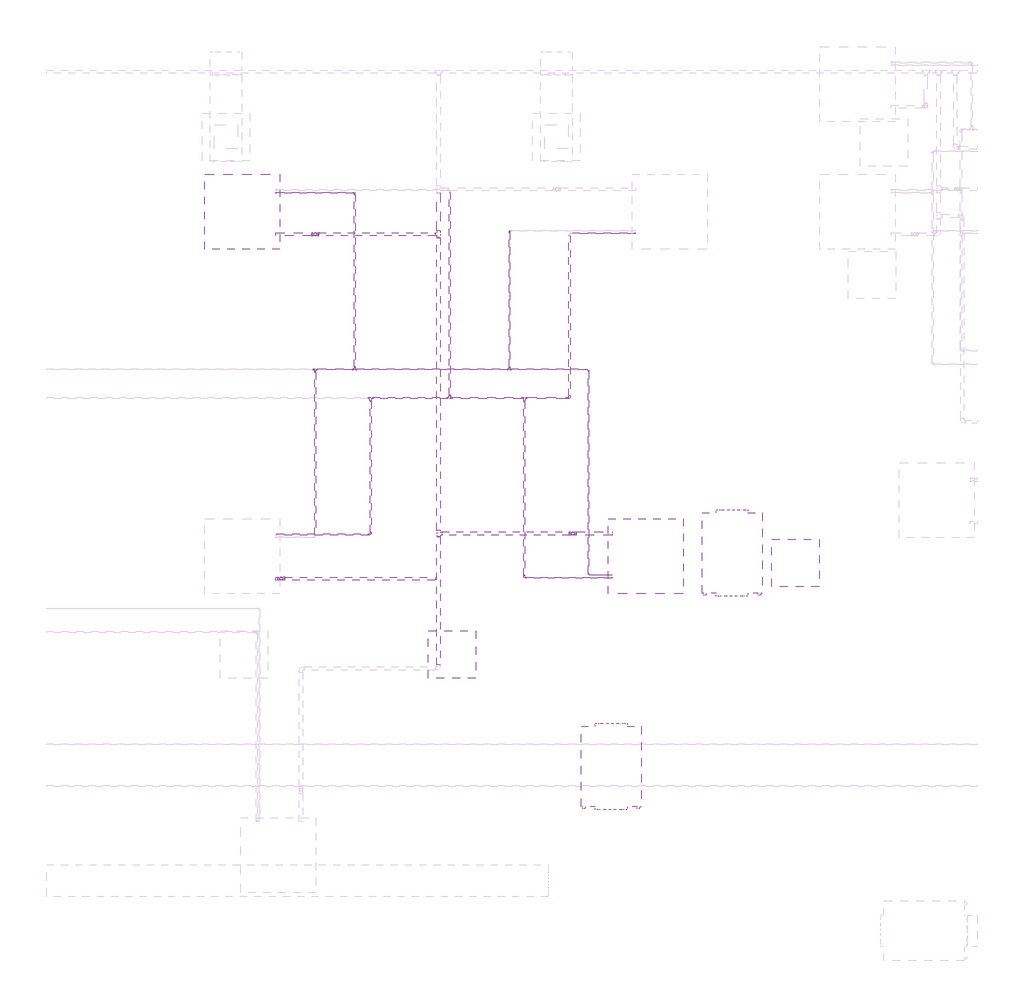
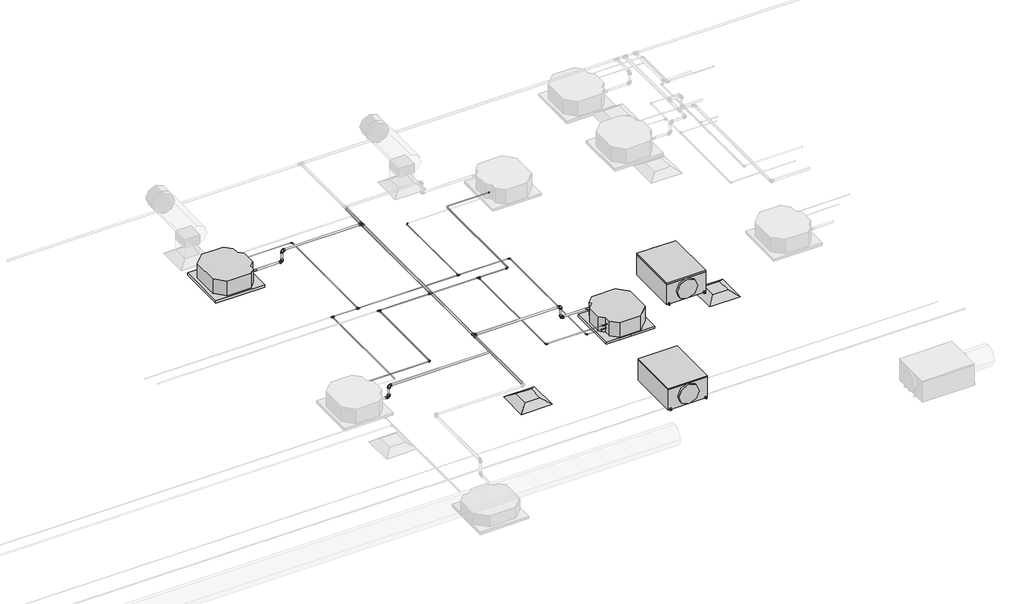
# One storey, part 18 of 22: 33 pipe fittings, 31 pipe segments, 4 proxies, 2 air terminals.
"""IFC4 building model written with IfcOpenShell, lengths in millimetres."""

from ifc_helpers import new_model, si_unit, point, frame, frame_2d, origin, place, context, project, spatial, circle_curve, trimmed, segment, composite_curve, outline, extrude, transform, mapped, element, save
from components import air_terminal_ff221211, mechanical_equipment_53173f38, fh_fh_400_6e0c7af0, pipe_fitting_062ba67a, pipe_fitting_144f4440, pipe_fitting_14eb6376, pipe_fitting_c900cfc2, pipe_fitting_16c020f5, pipe_fitting_afe73776, pipe_fitting_09966660, pipe_fitting_64d0e8e9, pipe_fitting_59d1f3e3, pipe_fitting_648138cd, pipe_fitting_b0e77d1d, pipe_fitting_c180495a, pipe_fitting_da16c1b3, pipe_fitting_90384c60, pipe_fitting_5a6d96d3

model = new_model("IFC4")

# Units and contexts
model_context = context("Model", 3, world=origin())
ifc_project = project(units=[si_unit("LENGTHUNIT", "METRE", prefix="MILLI")], contexts=[model_context])

# Site, building, storey
site = spatial("IfcSite", under=ifc_project)
building = spatial("IfcBuilding", under=site)
storey = spatial("IfcBuildingStorey", under=building, Name="Nível 2", Elevation=3880.0)

# Air terminals
placement = place(None, origin())
air_terminal_shape = air_terminal_ff221211(model_context)
element("IfcAirTerminal", 1, ObjectType="M_Difusor de fornecimento : 600 x 600 Face 300 x 300 Conexão", at=placement, inside=storey, context=model_context, shape_type="MappedRepresentation", body=[
    mapped(air_terminal_shape, transform((18669.5136677, 2137.3539749, 6880.0), x_axis=(0.0, 1.0, 0.0), y_axis=(-1.0, 0.0, 0.0), z_axis=(0.0, 0.0, 1.0))),
])
element("IfcAirTerminal", 2, ObjectType="M_Difusor de fornecimento : 600 x 600 Face 300 x 300 Conexão", at=placement, inside=storey, context=model_context, shape_type="MappedRepresentation", body=[
    mapped(air_terminal_shape, transform((23014.7064473, 3294.7054459, 6880.0), x_axis=(-1.0, 0.0, 0.0), y_axis=(0.0, -1.0, 0.0), z_axis=(0.0, 0.0, 1.0))),
])

# Proxies
mechanical_equipment_shape = mechanical_equipment_53173f38(model_context)
element("IfcBuildingElementProxy", 3, Name="Midea_VRF_Indoor_4-way Cassette_MI-90(100,112,140)Q4_DHN1-D (2nd DC) : MI2-140Q4DHN1", ObjectType="Midea_VRF_Indoor_4-way Cassette_MI-90(100,112,140)Q4_DHN1-D (2nd DC) : MI2-140Q4DHN1", at=placement, inside=storey, context=model_context, shape_type="MappedRepresentation", body=[
    mapped(mechanical_equipment_shape, transform((16014.3184177, 7738.4946683, 6880.0), x_axis=(1.0, 0.0, 0.0), y_axis=(0.0, 1.0, 0.0), z_axis=(0.0, 0.0, 1.0))),
])
element("IfcBuildingElementProxy", 4, Name="Midea_VRF_Indoor_4-way Cassette_MI-90(100,112,140)Q4_DHN1-D (2nd DC) : MI2-140Q4DHN1", ObjectType="Midea_VRF_Indoor_4-way Cassette_MI-90(100,112,140)Q4_DHN1-D (2nd DC) : MI2-140Q4DHN1", at=placement, inside=storey, context=model_context, shape_type="MappedRepresentation", body=[
    mapped(mechanical_equipment_shape, transform((21120.3085305, 3382.4868871, 6880.0), x_axis=(-1.0, 0.0, 0.0), y_axis=(0.0, -1.0, 0.0), z_axis=(0.0, 0.0, 1.0))),
])
fh_fh_400_shape = fh_fh_400_6e0c7af0(model_context)
element("IfcBuildingElementProxy", 5, Name="FH : FH 400", ObjectType="FH : FH 400", at=placement, inside=storey, context=model_context, shape_type="MappedRepresentation", body=[
    mapped(fh_fh_400_shape, transform((22212.1483041, 3422.8368648, 7280.0), x_axis=(1.0, 0.0, 0.0), y_axis=(0.0, 1.0, 0.0), z_axis=(0.0, 0.0, 1.0))),
])
element("IfcBuildingElementProxy", 6, Name="FH : FH 400", ObjectType="FH : FH 400", at=placement, inside=storey, context=model_context, shape_type="MappedRepresentation", body=[
    mapped(fh_fh_400_shape, transform((20682.6496305, 722.8368648, 7280.0), x_axis=(1.0, 0.0, 0.0), y_axis=(0.0, 1.0, 0.0), z_axis=(0.0, 0.0, 1.0))),
])

# Pipe fittings
pipe_fitting_shape = pipe_fitting_062ba67a(model_context)
element("IfcPipeFitting", 7, ObjectType="Cotovelo - PVC - CW : Padrão", at=placement, inside=storey, context=model_context, shape_type="MappedRepresentation", body=[
    mapped(pipe_fitting_shape, transform((20195.3085305, 3667.4868871, 7132.3), x_axis=(-0.999999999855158, 0.0, -1.7020106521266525e-05), y_axis=(-1.7020106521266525e-05, 0.0, 0.999999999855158), z_axis=(0.0, 1.0, 0.0))),
])
element("IfcPipeFitting", 8, ObjectType="Cotovelo - PVC - CW : Padrão", at=placement, inside=storey, context=model_context, shape_type="MappedRepresentation", body=[
    mapped(pipe_fitting_shape, transform((16939.3184176, 7453.4946683, 7132.3), x_axis=(0.999999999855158, 0.0, -1.70201065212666e-05), y_axis=(1.70201065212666e-05, 0.0, 0.999999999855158), z_axis=(0.0, -1.0, 0.0))),
])
pipe_fitting_2_shape = pipe_fitting_144f4440(model_context)
element("IfcPipeFitting", 9, ObjectType="Cotovelo - PVC - CW : Padrão", at=placement, inside=storey, context=model_context, shape_type="MappedRepresentation", body=[
    mapped(pipe_fitting_2_shape, transform((16509.7181651, 3097.4868871, 7132.3085101), x_axis=(1.0, 0.0, 0.0), y_axis=(0.0, 0.0, 1.0), z_axis=(0.0, -1.0, 0.0))),
])
element("IfcPipeFitting", 10, ObjectType="Cotovelo - PVC - CW : Padrão", at=placement, inside=storey, context=model_context, shape_type="MappedRepresentation", body=[
    mapped(pipe_fitting_2_shape, transform((16509.7181651, 3097.4868871, 7360.6313654), x_axis=(0.0, 0.0, 1.0), y_axis=(1.0, 0.0, 0.0), z_axis=(0.0, 1.0, 0.0))),
])
element("IfcPipeFitting", 11, ObjectType="Cotovelo - PVC - CW : Padrão", at=placement, inside=storey, context=model_context, shape_type="MappedRepresentation", body=[
    mapped(pipe_fitting_2_shape, transform((20195.3085305, 3667.4868871, 7360.6313654), x_axis=(0.0, 0.0, 1.0), y_axis=(-1.0, 0.0, 0.0), z_axis=(0.0, -1.0, 0.0))),
])
element("IfcPipeFitting", 12, ObjectType="Cotovelo - PVC - CW : Padrão", at=placement, inside=storey, context=model_context, shape_type="MappedRepresentation", body=[
    mapped(pipe_fitting_2_shape, transform((16939.3184176, 7453.4946683, 7360.6313654), x_axis=(0.0, 0.0, 1.0), y_axis=(1.0, 0.0, 0.0), z_axis=(0.0, 1.0, 0.0))),
])
pipe_fitting_3_shape = pipe_fitting_14eb6376(model_context)
element("IfcPipeFitting", 13, ObjectType="Tê de redução - PVC - CW : Padrão", at=placement, inside=storey, context=model_context, shape_type="MappedRepresentation", body=[
    mapped(pipe_fitting_3_shape, transform((18498.0303831, 3667.4868871, 7360.6313654), x_axis=(0.0, 1.0, 0.0), y_axis=(-1.0, 0.0, 0.0), z_axis=(0.0, 0.0, 1.0))),
])
element("IfcPipeFitting", 14, ObjectType="Tê de redução - PVC - CW : Padrão", at=placement, inside=storey, context=model_context, shape_type="MappedRepresentation", body=[
    mapped(pipe_fitting_3_shape, transform((18498.0303831, 7453.4946683, 7360.6313654), x_axis=(0.0, 1.0, 0.0), y_axis=(1.0, 0.0, 0.0), z_axis=(0.0, 0.0, -1.0))),
])
pipe_fitting_4_shape = pipe_fitting_c900cfc2(model_context)
element("IfcPipeFitting", 15, ObjectType="Bucha de redução reta - Soldada - CU : Padrão", at=placement, inside=storey, context=model_context, shape_type="MappedRepresentation", body=[
    mapped(pipe_fitting_4_shape, transform((20695.3085305, 3109.2760734, 7132.3085101), x_axis=(-1.0, 0.0, 0.0), y_axis=(0.0, -1.0, 0.0), z_axis=(0.0, 0.0, 1.0))),
])
element("IfcPipeFitting", 16, ObjectType="Bucha de redução reta - Soldada - CU : Padrão", at=placement, inside=storey, context=model_context, shape_type="MappedRepresentation", body=[
    mapped(pipe_fitting_4_shape, transform((20995.3085305, 7465.2838546, 7132.3085101), x_axis=(-1.0, 0.0, 0.0), y_axis=(0.0, -1.0, 0.0), z_axis=(0.0, 0.0, 1.0))),
])
pipe_fitting_5_shape = pipe_fitting_16c020f5(model_context)
element("IfcPipeFitting", 17, ObjectType="Cotovelo - Soldado - CU : Padrão", at=placement, inside=storey, context=model_context, shape_type="MappedRepresentation", body=[
    mapped(pipe_fitting_5_shape, transform((20155.3085305, 5380.03247, 7132.3), x_axis=(1.0, 0.0, 0.0), y_axis=(0.0, 1.0, 0.0), z_axis=(0.0, 0.0, 1.0))),
])
element("IfcPipeFitting", 18, ObjectType="Cotovelo - Soldado - CU : Padrão", at=placement, inside=storey, context=model_context, shape_type="MappedRepresentation", body=[
    mapped(pipe_fitting_5_shape, transform((19582.6496305, 3109.2760734, 7132.3030634), x_axis=(0.0, -0.9999999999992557, 1.2201758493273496e-06), y_axis=(0.9999999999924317, 4.7472072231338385e-12, 3.89059267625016e-06), z_axis=(-3.890592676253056e-06, 1.2201758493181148e-06, 0.9999999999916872))),
])
element("IfcPipeFitting", 19, ObjectType="Cotovelo - Soldado - CU : Padrão", at=placement, inside=storey, context=model_context, shape_type="MappedRepresentation", body=[
    mapped(pipe_fitting_5_shape, transform((17639.3184176, 3655.6977008, 7132.3), x_axis=(0.9999999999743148, 0.0, -7.167319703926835e-06), y_axis=(0.0, 1.0, 0.0), z_axis=(7.167319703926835e-06, 0.0, 0.9999999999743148))),
])
pipe_fitting_6_shape = pipe_fitting_afe73776(model_context)
element("IfcPipeFitting", 20, ObjectType="Bucha de redução reta - Soldada - CU : Padrão", at=placement, inside=storey, context=model_context, shape_type="MappedRepresentation", body=[
    mapped(pipe_fitting_6_shape, transform((19582.6496305, 5349.87197, 7132.3000367), x_axis=(0.0, -0.9999999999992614, 1.215429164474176e-06), y_axis=(1.0, 0.0, 0.0), z_axis=(0.0, 1.215429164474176e-06, 0.9999999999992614))),
])
element("IfcPipeFitting", 21, ObjectType="Bucha de redução reta - Soldada - CU : Padrão", at=placement, inside=storey, context=model_context, shape_type="MappedRepresentation", body=[
    mapped(pipe_fitting_6_shape, transform((17639.3184176, 5349.87197, 7132.3), x_axis=(0.0, -1.0, 0.0), y_axis=(1.0, 0.0, 0.0), z_axis=(0.0, 0.0, 1.0))),
])
element("IfcPipeFitting", 22, ObjectType="Bucha de redução reta - Soldada - CU : Padrão", at=placement, inside=storey, context=model_context, shape_type="MappedRepresentation", body=[
    mapped(pipe_fitting_6_shape, transform((18639.3184177, 5410.19297, 7132.3), x_axis=(0.0, 1.0, 0.0), y_axis=(-1.0, 0.0, 0.0), z_axis=(0.0, 0.0, 1.0))),
])
pipe_fitting_7_shape = pipe_fitting_09966660(model_context)
element("IfcPipeFitting", 23, ObjectType="Tê - Soldado - CU : Padrão", at=placement, inside=storey, context=model_context, shape_type="MappedRepresentation", body=[
    mapped(pipe_fitting_7_shape, transform((19582.6496305, 5380.03247, 7132.3), x_axis=(-1.0, 0.0, 0.0), y_axis=(0.0, 0.9999999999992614, -1.215429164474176e-06), z_axis=(0.0, -1.215429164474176e-06, -0.9999999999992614))),
])
element("IfcPipeFitting", 24, ObjectType="Tê - Soldado - CU : Padrão", at=placement, inside=storey, context=model_context, shape_type="MappedRepresentation", body=[
    mapped(pipe_fitting_7_shape, transform((17639.3184176, 5380.03247, 7132.3), x_axis=(-1.0, 0.0, 0.0), y_axis=(0.0, 1.0, 0.0), z_axis=(0.0, 0.0, -1.0))),
])
element("IfcPipeFitting", 25, ObjectType="Tê - Soldado - CU : Padrão", at=placement, inside=storey, context=model_context, shape_type="MappedRepresentation", body=[
    mapped(pipe_fitting_7_shape, transform((18639.3184177, 5380.03247, 7132.3), x_axis=(-1.0, 0.0, 0.0), y_axis=(0.0, -1.0, 0.0), z_axis=(0.0, 0.0, 1.0))),
])
pipe_fitting_8_shape = pipe_fitting_64d0e8e9(model_context)
element("IfcPipeFitting", 26, ObjectType="Bucha de redução reta - Soldada - CU : Padrão", at=placement, inside=storey, context=model_context, shape_type="MappedRepresentation", body=[
    mapped(pipe_fitting_8_shape, transform((20126.3299305, 5380.03247, 7132.3), x_axis=(-1.0, 0.0, 0.0), y_axis=(0.0, -1.0, 0.0), z_axis=(0.0, 0.0, 1.0))),
])
pipe_fitting_9_shape = pipe_fitting_59d1f3e3(model_context)
element("IfcPipeFitting", 27, ObjectType="Bucha de redução reta - Soldada - CU : Padrão", at=placement, inside=storey, context=model_context, shape_type="MappedRepresentation", body=[
    mapped(pipe_fitting_9_shape, transform((16439.3184177, 7977.9030401, 7026.8446487), x_axis=(1.0, 0.0, 0.0), y_axis=(0.0, 1.0, 0.0), z_axis=(0.0, 0.0, 1.0))),
])
pipe_fitting_10_shape = pipe_fitting_648138cd(model_context)
element("IfcPipeFitting", 28, ObjectType="Cotovelo - Soldado - CU : Padrão", at=placement, inside=storey, context=model_context, shape_type="MappedRepresentation", body=[
    mapped(pipe_fitting_10_shape, transform((19395.3085305, 7499.0862964, 7026.8446487), x_axis=(-1.0, 0.0, 0.0), y_axis=(0.0, -1.0, 0.0), z_axis=(0.0, 0.0, 1.0))),
])
element("IfcPipeFitting", 29, ObjectType="Cotovelo - Soldado - CU : Padrão", at=placement, inside=storey, context=model_context, shape_type="MappedRepresentation", body=[
    mapped(pipe_fitting_10_shape, transform((17439.3184177, 7977.9030401, 7026.8446487), x_axis=(0.0, 1.0, 0.0), y_axis=(-1.0, 0.0, 0.0), z_axis=(0.0, 0.0, 1.0))),
])
pipe_fitting_11_shape = pipe_fitting_b0e77d1d(model_context)
element("IfcPipeFitting", 30, ObjectType="Bucha de redução reta - Soldada - CU : Padrão", at=placement, inside=storey, context=model_context, shape_type="MappedRepresentation", body=[
    mapped(pipe_fitting_11_shape, transform((20695.3085305, 3143.0785153, 7026.8446487), x_axis=(-1.0, 0.0, 0.0), y_axis=(0.0, -1.0, 0.0), z_axis=(0.0, 0.0, 1.0))),
])
pipe_fitting_12_shape = pipe_fitting_c180495a(model_context)
element("IfcPipeFitting", 31, ObjectType="Cotovelo - Soldado - CU : Padrão", at=placement, inside=storey, context=model_context, shape_type="MappedRepresentation", body=[
    mapped(pipe_fitting_12_shape, transform((20395.3085305, 3143.0785153, 7026.8446487), x_axis=(0.0, -1.0, 0.0), y_axis=(1.0, 0.0, 0.0), z_axis=(0.0, 0.0, 1.0))),
])
element("IfcPipeFitting", 32, ObjectType="Cotovelo - Soldado - CU : Padrão", at=placement, inside=storey, context=model_context, shape_type="MappedRepresentation", body=[
    mapped(pipe_fitting_12_shape, transform((20395.3085305, 5743.0785153, 7026.8446487), x_axis=(0.0, 1.0, 0.0), y_axis=(-1.0, 0.0, 0.0), z_axis=(0.0, 0.0, 1.0))),
])
pipe_fitting_13_shape = pipe_fitting_da16c1b3(model_context)
element("IfcPipeFitting", 33, ObjectType="Tê - Soldado - CU : Padrão", at=placement, inside=storey, context=model_context, shape_type="MappedRepresentation", body=[
    mapped(pipe_fitting_13_shape, transform((19395.3085305, 5743.0785153, 7026.8446487), x_axis=(1.0, 0.0, 0.0), y_axis=(0.0, -1.0, 0.0), z_axis=(0.0, 0.0, -1.0))),
])
element("IfcPipeFitting", 34, ObjectType="Tê - Soldado - CU : Padrão", at=placement, inside=storey, context=model_context, shape_type="MappedRepresentation", body=[
    mapped(pipe_fitting_13_shape, transform((17439.3184177, 5743.0785153, 7026.8446487), x_axis=(1.0, 0.0, 0.0), y_axis=(0.0, -1.0, 0.0), z_axis=(0.0, 0.0, -1.0))),
])
element("IfcPipeFitting", 35, ObjectType="Tê - Soldado - CU : Padrão", at=placement, inside=storey, context=model_context, shape_type="MappedRepresentation", body=[
    mapped(pipe_fitting_13_shape, transform((16939.3184177, 5743.0785153, 7026.8446487), x_axis=(1.0, 0.0, 0.0), y_axis=(0.0, 1.0, 0.0), z_axis=(0.0, 0.0, 1.0))),
])
pipe_fitting_14_shape = pipe_fitting_90384c60(model_context)
element("IfcPipeFitting", 36, ObjectType="Bucha de redução reta - Soldada - CU : Padrão", at=placement, inside=storey, context=model_context, shape_type="MappedRepresentation", body=[
    mapped(pipe_fitting_14_shape, transform((20370.9085305, 5743.0785153, 7026.8446487), x_axis=(-1.0, 0.0, 0.0), y_axis=(0.0, -1.0, 0.0), z_axis=(0.0, 0.0, 1.0))),
])
pipe_fitting_15_shape = pipe_fitting_5a6d96d3(model_context)
element("IfcPipeFitting", 37, ObjectType="Bucha de redução reta - Soldada - CU : Padrão", at=placement, inside=storey, context=model_context, shape_type="MappedRepresentation", body=[
    mapped(pipe_fitting_15_shape, transform((19395.3085305, 5768.0955153, 7026.8446487), x_axis=(0.0, 1.0, 0.0), y_axis=(-1.0, 0.0, 0.0), z_axis=(0.0, 0.0, 1.0))),
])
element("IfcPipeFitting", 38, ObjectType="Bucha de redução reta - Soldada - CU : Padrão", at=placement, inside=storey, context=model_context, shape_type="MappedRepresentation", body=[
    mapped(pipe_fitting_15_shape, transform((17439.3184177, 5768.0955153, 7026.8446487), x_axis=(0.0, 1.0, 0.0), y_axis=(-1.0, 0.0, 0.0), z_axis=(0.0, 0.0, 1.0))),
])
element("IfcPipeFitting", 39, ObjectType="Bucha de redução reta - Soldada - CU : Padrão", at=placement, inside=storey, context=model_context, shape_type="MappedRepresentation", body=[
    mapped(pipe_fitting_15_shape, transform((16939.3184177, 5718.0615153, 7026.8446487), x_axis=(0.0, -1.0, 0.0), y_axis=(1.0, 0.0, 0.0), z_axis=(0.0, 0.0, 1.0))),
])

# Pipe segments
element("IfcPipeSegment", 40, ObjectType="Tubos de cobre HVAC", at=placement, inside=storey, context=model_context, shape_type="SweptSolid", body=[
    extrude(outline(composite_curve([segment(trimmed(circle_curve(frame_2d((0.0, -7.935)), 7.935), [point((-7.935, -7.935))], [point((0.0, 0.0))], False, "CARTESIAN"), True, "CONTINUOUS"), segment(trimmed(circle_curve(frame_2d((0.0, -7.935)), 7.935), [point((0.0, 0.0))], [point((7.935, -7.935))], False, "CARTESIAN"), True, "CONTINUOUS"), segment(trimmed(circle_curve(frame_2d((0.0, -7.935)), 7.935), [point((7.935, -7.935))], [point((0.0, -15.87))], False, "CARTESIAN"), True, "CONTINUOUS"), segment(trimmed(circle_curve(frame_2d((0.0, -7.935)), 7.935), [point((0.0, -15.87))], [point((-7.935, -7.935))], False, "CARTESIAN"), True, "CONTINUOUS")], self_intersect=False)), frame((19611.62827, 3109.2760734, 7124.368176), z_axis=(0.999999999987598, 0.0, 4.980372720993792e-06), x_axis=(0.0, -1.0, 0.0)), (0.0, 0.0, 1.0), 1071.0214),
])
element("IfcPipeSegment", 41, ObjectType="Tubos de cobre HVAC", at=placement, inside=storey, context=model_context, shape_type="SweptSolid", body=[
    extrude(outline(composite_curve([segment(trimmed(circle_curve(frame_2d((5380.03247, 7132.3)), 9.525), [point((5370.50747, 7132.3))], [point((5380.03247, 7141.825))], False, "CARTESIAN"), True, "CONTINUOUS"), segment(trimmed(circle_curve(frame_2d((5380.03247, 7132.3)), 9.525), [point((5380.03247, 7141.825))], [point((5389.55747, 7132.3))], False, "CARTESIAN"), True, "CONTINUOUS"), segment(trimmed(circle_curve(frame_2d((5380.03247, 7132.3)), 9.525), [point((5389.55747, 7132.3))], [point((5380.03247, 7122.775))], False, "CARTESIAN"), True, "CONTINUOUS"), segment(trimmed(circle_curve(frame_2d((5380.03247, 7132.3)), 9.525), [point((5380.03247, 7122.775))], [point((5370.50747, 7132.3))], False, "CARTESIAN"), True, "CONTINUOUS")], self_intersect=False)), frame((19612.8448805, 0.0, 0.0), z_axis=(1.0, 0.0, 0.0), x_axis=(0.0, 1.0, 0.0)), (0.0, 0.0, 1.0), 500.82615),
])
element("IfcPipeSegment", 42, ObjectType="Tubos de cobre HVAC", at=placement, inside=storey, context=model_context, shape_type="SweptSolid", body=[
    extrude(outline(composite_curve([segment(trimmed(circle_curve(frame_2d((0.0, -7.935)), 7.935), [point((-7.935, -7.935))], [point((0.0, 0.0))], False, "CARTESIAN"), True, "CONTINUOUS"), segment(trimmed(circle_curve(frame_2d((0.0, -7.935)), 7.935), [point((0.0, 0.0))], [point((7.935, -7.935))], False, "CARTESIAN"), True, "CONTINUOUS"), segment(trimmed(circle_curve(frame_2d((0.0, -7.935)), 7.935), [point((7.935, -7.935))], [point((0.0, -15.87))], False, "CARTESIAN"), True, "CONTINUOUS"), segment(trimmed(circle_curve(frame_2d((0.0, -7.935)), 7.935), [point((0.0, -15.87))], [point((-7.935, -7.935))], False, "CARTESIAN"), True, "CONTINUOUS")], self_intersect=False)), frame((20184.2872121, 7465.2838546, 7124.3652981), z_axis=(0.9999999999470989, 0.0, 1.0286027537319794e-05), x_axis=(0.0, -1.0, 0.0)), (0.0, 0.0, 1.0), 798.3625),
])
element("IfcPipeSegment", 43, ObjectType="Tubos de cobre HVAC", at=placement, inside=storey, context=model_context, shape_type="SweptSolid", body=[
    extrude(outline(composite_curve([segment(trimmed(circle_curve(frame_2d((7132.3, 20155.3085305)), 7.935), [point((7132.3, 20147.3735305))], [point((7124.365, 20155.3085305))], False, "CARTESIAN"), True, "CONTINUOUS"), segment(trimmed(circle_curve(frame_2d((7132.3, 20155.3085305)), 7.935), [point((7124.365, 20155.3085305))], [point((7132.3, 20163.2435305))], False, "CARTESIAN"), True, "CONTINUOUS"), segment(trimmed(circle_curve(frame_2d((7132.3, 20155.3085305)), 7.935), [point((7132.3, 20163.2435305))], [point((7140.235, 20155.3085305))], False, "CARTESIAN"), True, "CONTINUOUS"), segment(trimmed(circle_curve(frame_2d((7132.3, 20155.3085305)), 7.935), [point((7140.235, 20155.3085305))], [point((7132.3, 20147.3735305))], False, "CARTESIAN"), True, "CONTINUOUS")], self_intersect=False)), frame((0.0, 5409.01107, 0.0), z_axis=(0.0, 1.0, 0.0), x_axis=(0.0, 0.0, 1.0)), (0.0, 0.0, 1.0), 2027.2941846),
])
element("IfcPipeSegment", 44, ObjectType="Tubos de cobre HVAC", at=placement, inside=storey, context=model_context, shape_type="SweptSolid", body=[
    extrude(outline(composite_curve([segment(trimmed(circle_curve(frame_2d((7132.300052, 19582.6496305)), 7.935), [point((7132.300052, 19574.7146305))], [point((7124.365052, 19582.6496305))], False, "CARTESIAN"), True, "CONTINUOUS"), segment(trimmed(circle_curve(frame_2d((7132.300052, 19582.6496305)), 7.935), [point((7124.365052, 19582.6496305))], [point((7132.300052, 19590.5846305))], False, "CARTESIAN"), True, "CONTINUOUS"), segment(trimmed(circle_curve(frame_2d((7132.300052, 19582.6496305)), 7.935), [point((7132.300052, 19590.5846305))], [point((7140.235052, 19582.6496305))], False, "CARTESIAN"), True, "CONTINUOUS"), segment(trimmed(circle_curve(frame_2d((7132.300052, 19582.6496305)), 7.935), [point((7140.235052, 19582.6496305))], [point((7132.300052, 19574.7146305))], False, "CARTESIAN"), True, "CONTINUOUS")], self_intersect=False)), frame((0.0, 3138.2546734, 0.0), z_axis=(0.0, 1.0, 0.0), x_axis=(0.0, 0.0, 1.0)), (0.0, 0.0, 1.0), 2198.9583965),
])
element("IfcPipeSegment", 45, ObjectType="Tubos de cobre HVAC", at=placement, inside=storey, context=model_context, shape_type="SweptSolid", body=[
    extrude(outline(composite_curve([segment(trimmed(circle_curve(frame_2d((5380.03247, 7132.3)), 9.525), [point((5370.50747, 7132.3))], [point((5380.03247, 7141.825))], False, "CARTESIAN"), True, "CONTINUOUS"), segment(trimmed(circle_curve(frame_2d((5380.03247, 7132.3)), 9.525), [point((5380.03247, 7141.825))], [point((5389.55747, 7132.3))], False, "CARTESIAN"), True, "CONTINUOUS"), segment(trimmed(circle_curve(frame_2d((5380.03247, 7132.3)), 9.525), [point((5389.55747, 7132.3))], [point((5380.03247, 7122.775))], False, "CARTESIAN"), True, "CONTINUOUS"), segment(trimmed(circle_curve(frame_2d((5380.03247, 7132.3)), 9.525), [point((5380.03247, 7122.775))], [point((5370.50747, 7132.3))], False, "CARTESIAN"), True, "CONTINUOUS")], self_intersect=False)), frame((18669.5136677, 0.0, 0.0), z_axis=(1.0, 0.0, 0.0), x_axis=(0.0, 1.0, 0.0)), (0.0, 0.0, 1.0), 882.9407128),
])
element("IfcPipeSegment", 46, ObjectType="Tubos de cobre HVAC", at=placement, inside=storey, context=model_context, shape_type="SweptSolid", body=[
    extrude(outline(composite_curve([segment(trimmed(circle_curve(frame_2d((0.0, -7.935)), 7.935), [point((-7.935, -7.935))], [point((0.0, 0.0))], False, "CARTESIAN"), True, "CONTINUOUS"), segment(trimmed(circle_curve(frame_2d((0.0, -7.935)), 7.935), [point((0.0, 0.0))], [point((7.935, -7.935))], False, "CARTESIAN"), True, "CONTINUOUS"), segment(trimmed(circle_curve(frame_2d((0.0, -7.935)), 7.935), [point((7.935, -7.935))], [point((0.0, -15.87))], False, "CARTESIAN"), True, "CONTINUOUS"), segment(trimmed(circle_curve(frame_2d((0.0, -7.935)), 7.935), [point((0.0, -15.87))], [point((-7.935, -7.935))], False, "CARTESIAN"), True, "CONTINUOUS")], self_intersect=False)), frame((17610.3397608, 3655.6977008, 7124.3652077), z_axis=(-0.9999999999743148, 0.0, 7.167319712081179e-06), x_axis=(0.0, 1.0, 0.0)), (0.0, 0.0, 1.0), 1158.3625),
])
element("IfcPipeSegment", 47, ObjectType="Tubos de cobre HVAC", at=placement, inside=storey, context=model_context, shape_type="SweptSolid", body=[
    extrude(outline(composite_curve([segment(trimmed(circle_curve(frame_2d((7132.3, 17639.3184176)), 7.935), [point((7132.3, 17631.3834176))], [point((7124.365, 17639.3184176))], False, "CARTESIAN"), True, "CONTINUOUS"), segment(trimmed(circle_curve(frame_2d((7132.3, 17639.3184176)), 7.935), [point((7124.365, 17639.3184176))], [point((7132.3, 17647.2534176))], False, "CARTESIAN"), True, "CONTINUOUS"), segment(trimmed(circle_curve(frame_2d((7132.3, 17639.3184176)), 7.935), [point((7132.3, 17647.2534176))], [point((7140.235, 17639.3184176))], False, "CARTESIAN"), True, "CONTINUOUS"), segment(trimmed(circle_curve(frame_2d((7132.3, 17639.3184176)), 7.935), [point((7140.235, 17639.3184176))], [point((7132.3, 17631.3834176))], False, "CARTESIAN"), True, "CONTINUOUS")], self_intersect=False)), frame((0.0, 3684.6763008, 0.0), z_axis=(0.0, 1.0, 0.0), x_axis=(0.0, 0.0, 1.0)), (0.0, 0.0, 1.0), 1652.5367692),
])
element("IfcPipeSegment", 48, ObjectType="Tubos de cobre HVAC", at=placement, inside=storey, context=model_context, shape_type="SweptSolid", body=[
    extrude(outline(composite_curve([segment(trimmed(circle_curve(frame_2d((7132.3, 18639.3184177)), 7.935), [point((7132.3, 18647.2534177))], [point((7140.235, 18639.3184177))], False, "CARTESIAN"), True, "CONTINUOUS"), segment(trimmed(circle_curve(frame_2d((7132.3, 18639.3184177)), 7.935), [point((7140.235, 18639.3184177))], [point((7132.3, 18631.3834177))], False, "CARTESIAN"), True, "CONTINUOUS"), segment(trimmed(circle_curve(frame_2d((7132.3, 18639.3184177)), 7.935), [point((7132.3, 18631.3834177))], [point((7124.365, 18639.3184177))], False, "CARTESIAN"), True, "CONTINUOUS"), segment(trimmed(circle_curve(frame_2d((7132.3, 18639.3184177)), 7.935), [point((7124.365, 18639.3184177))], [point((7132.3, 18647.2534177))], False, "CARTESIAN"), True, "CONTINUOUS")], self_intersect=False)), frame((0.0, 5422.85187, 0.0), z_axis=(0.0, 1.0, 0.0), x_axis=(0.0, 0.0, 1.0)), (0.0, 0.0, 1.0), 2559.875012),
])
element("IfcPipeSegment", 49, ObjectType="Tubos de cobre HVAC", at=placement, inside=storey, context=model_context, shape_type="SweptSolid", body=[
    extrude(outline(composite_curve([segment(trimmed(circle_curve(frame_2d((5380.03247, 7132.3)), 9.525), [point((5370.50747, 7132.3))], [point((5380.03247, 7141.825))], False, "CARTESIAN"), True, "CONTINUOUS"), segment(trimmed(circle_curve(frame_2d((5380.03247, 7132.3)), 9.525), [point((5380.03247, 7141.825))], [point((5389.55747, 7132.3))], False, "CARTESIAN"), True, "CONTINUOUS"), segment(trimmed(circle_curve(frame_2d((5380.03247, 7132.3)), 9.525), [point((5389.55747, 7132.3))], [point((5380.03247, 7122.775))], False, "CARTESIAN"), True, "CONTINUOUS"), segment(trimmed(circle_curve(frame_2d((5380.03247, 7132.3)), 9.525), [point((5380.03247, 7122.775))], [point((5370.50747, 7132.3))], False, "CARTESIAN"), True, "CONTINUOUS")], self_intersect=False)), frame((17669.5136676, 0.0, 0.0), z_axis=(1.0, 0.0, 0.0), x_axis=(0.0, 1.0, 0.0)), (0.0, 0.0, 1.0), 939.6095),
])
element("IfcPipeSegment", 50, ObjectType="Tubos de cobre HVAC", at=placement, inside=storey, context=model_context, shape_type="SweptSolid", body=[
    extrude(outline(composite_curve([segment(trimmed(circle_curve(frame_2d((3143.0785153, 7026.8446487)), 4.76), [point((3147.8385153, 7026.8446487))], [point((3143.0785153, 7022.0846487))], False, "CARTESIAN"), True, "CONTINUOUS"), segment(trimmed(circle_curve(frame_2d((3143.0785153, 7026.8446487)), 4.76), [point((3143.0785153, 7022.0846487))], [point((3138.3185153, 7026.8446487))], False, "CARTESIAN"), True, "CONTINUOUS"), segment(trimmed(circle_curve(frame_2d((3143.0785153, 7026.8446487)), 4.76), [point((3138.3185153, 7026.8446487))], [point((3143.0785153, 7031.6046487))], False, "CARTESIAN"), True, "CONTINUOUS"), segment(trimmed(circle_curve(frame_2d((3143.0785153, 7026.8446487)), 4.76), [point((3143.0785153, 7031.6046487))], [point((3147.8385153, 7026.8446487))], False, "CARTESIAN"), True, "CONTINUOUS")], self_intersect=False)), frame((20419.7085305, 0.0, 0.0), z_axis=(1.0, 0.0, 0.0), x_axis=(0.0, 1.0, 0.0)), (0.0, 0.0, 1.0), 265.9209),
])
element("IfcPipeSegment", 51, ObjectType="Tubos de cobre HVAC", at=placement, inside=storey, context=model_context, shape_type="SweptSolid", body=[
    extrude(outline(composite_curve([segment(trimmed(circle_curve(frame_2d((7026.8446487, 20395.3085305)), 4.76), [point((7026.8446487, 20400.0685305))], [point((7031.6046487, 20395.3085305))], False, "CARTESIAN"), True, "CONTINUOUS"), segment(trimmed(circle_curve(frame_2d((7026.8446487, 20395.3085305)), 4.76), [point((7031.6046487, 20395.3085305))], [point((7026.8446487, 20390.5485305))], False, "CARTESIAN"), True, "CONTINUOUS"), segment(trimmed(circle_curve(frame_2d((7026.8446487, 20395.3085305)), 4.76), [point((7026.8446487, 20390.5485305))], [point((7022.0846487, 20395.3085305))], False, "CARTESIAN"), True, "CONTINUOUS"), segment(trimmed(circle_curve(frame_2d((7026.8446487, 20395.3085305)), 4.76), [point((7022.0846487, 20395.3085305))], [point((7026.8446487, 20400.0685305))], False, "CARTESIAN"), True, "CONTINUOUS")], self_intersect=False)), frame((0.0, 3167.4785153, 0.0), z_axis=(0.0, 1.0, 0.0), x_axis=(0.0, 0.0, 1.0)), (0.0, 0.0, 1.0), 2551.2),
])
element("IfcPipeSegment", 52, ObjectType="Tubos de cobre HVAC", at=placement, inside=storey, context=model_context, shape_type="SweptSolid", body=[
    extrude(outline(composite_curve([segment(trimmed(circle_curve(frame_2d((7026.8446487, 19395.3085305)), 4.76), [point((7026.8446487, 19400.0685305))], [point((7031.6046487, 19395.3085305))], False, "CARTESIAN"), True, "CONTINUOUS"), segment(trimmed(circle_curve(frame_2d((7026.8446487, 19395.3085305)), 4.76), [point((7031.6046487, 19395.3085305))], [point((7026.8446487, 19390.5485305))], False, "CARTESIAN"), True, "CONTINUOUS"), segment(trimmed(circle_curve(frame_2d((7026.8446487, 19395.3085305)), 4.76), [point((7026.8446487, 19390.5485305))], [point((7022.0846487, 19395.3085305))], False, "CARTESIAN"), True, "CONTINUOUS"), segment(trimmed(circle_curve(frame_2d((7026.8446487, 19395.3085305)), 4.76), [point((7022.0846487, 19395.3085305))], [point((7026.8446487, 19400.0685305))], False, "CARTESIAN"), True, "CONTINUOUS")], self_intersect=False)), frame((0.0, 5777.7699153, 0.0), z_axis=(0.0, 1.0, 0.0), x_axis=(0.0, 0.0, 1.0)), (0.0, 0.0, 1.0), 1697.2907812),
])
element("IfcPipeSegment", 53, ObjectType="Tubos de cobre HVAC", at=placement, inside=storey, context=model_context, shape_type="SweptSolid", body=[
    extrude(outline(composite_curve([segment(trimmed(circle_curve(frame_2d((5743.0785153, 7026.8446487)), 6.35), [point((5749.4285153, 7026.8446487))], [point((5743.0785153, 7020.4946487))], False, "CARTESIAN"), True, "CONTINUOUS"), segment(trimmed(circle_curve(frame_2d((5743.0785153, 7026.8446487)), 6.35), [point((5743.0785153, 7020.4946487))], [point((5736.7285153, 7026.8446487))], False, "CARTESIAN"), True, "CONTINUOUS"), segment(trimmed(circle_curve(frame_2d((5743.0785153, 7026.8446487)), 6.35), [point((5736.7285153, 7026.8446487))], [point((5743.0785153, 7033.1946487))], False, "CARTESIAN"), True, "CONTINUOUS"), segment(trimmed(circle_curve(frame_2d((5743.0785153, 7026.8446487)), 6.35), [point((5743.0785153, 7033.1946487))], [point((5749.4285153, 7026.8446487))], False, "CARTESIAN"), True, "CONTINUOUS")], self_intersect=False)), frame((19420.3920305, 0.0, 0.0), z_axis=(1.0, 0.0, 0.0), x_axis=(0.0, 1.0, 0.0)), (0.0, 0.0, 1.0), 940.6165),
])
element("IfcPipeSegment", 54, ObjectType="Tubos de cobre HVAC", at=placement, inside=storey, context=model_context, shape_type="SweptSolid", body=[
    extrude(outline(composite_curve([segment(trimmed(circle_curve(frame_2d((7977.9030401, 7026.8446487)), 4.76), [point((7973.1430401, 7026.8446487))], [point((7977.9030401, 7031.6046487))], False, "CARTESIAN"), True, "CONTINUOUS"), segment(trimmed(circle_curve(frame_2d((7977.9030401, 7026.8446487)), 4.76), [point((7977.9030401, 7031.6046487))], [point((7982.6630401, 7026.8446487))], False, "CARTESIAN"), True, "CONTINUOUS"), segment(trimmed(circle_curve(frame_2d((7977.9030401, 7026.8446487)), 4.76), [point((7982.6630401, 7026.8446487))], [point((7977.9030401, 7022.0846487))], False, "CARTESIAN"), True, "CONTINUOUS"), segment(trimmed(circle_curve(frame_2d((7977.9030401, 7026.8446487)), 4.76), [point((7977.9030401, 7022.0846487))], [point((7973.1430401, 7026.8446487))], False, "CARTESIAN"), True, "CONTINUOUS")], self_intersect=False)), frame((16448.9928177, 0.0, 0.0), z_axis=(1.0, 0.0, 0.0), x_axis=(0.0, 1.0, 0.0)), (0.0, 0.0, 1.0), 966.3),
])
element("IfcPipeSegment", 55, ObjectType="Tubos de cobre HVAC", at=placement, inside=storey, context=model_context, shape_type="SweptSolid", body=[
    extrude(outline(composite_curve([segment(trimmed(circle_curve(frame_2d((7026.8446487, 17439.3184177)), 4.76), [point((7026.8446487, 17444.0784177))], [point((7031.6046487, 17439.3184177))], False, "CARTESIAN"), True, "CONTINUOUS"), segment(trimmed(circle_curve(frame_2d((7026.8446487, 17439.3184177)), 4.76), [point((7031.6046487, 17439.3184177))], [point((7026.8446487, 17434.5584177))], False, "CARTESIAN"), True, "CONTINUOUS"), segment(trimmed(circle_curve(frame_2d((7026.8446487, 17439.3184177)), 4.76), [point((7026.8446487, 17434.5584177))], [point((7022.0846487, 17439.3184177))], False, "CARTESIAN"), True, "CONTINUOUS"), segment(trimmed(circle_curve(frame_2d((7026.8446487, 17439.3184177)), 4.76), [point((7022.0846487, 17439.3184177))], [point((7026.8446487, 17444.0784177))], False, "CARTESIAN"), True, "CONTINUOUS")], self_intersect=False)), frame((0.0, 5777.7699153, 0.0), z_axis=(0.0, 1.0, 0.0), x_axis=(0.0, 0.0, 1.0)), (0.0, 0.0, 1.0), 2176.1075248),
])
element("IfcPipeSegment", 56, ObjectType="Tubos de cobre HVAC", at=placement, inside=storey, context=model_context, shape_type="SweptSolid", body=[
    extrude(outline(composite_curve([segment(trimmed(circle_curve(frame_2d((5743.0785153, 7026.8446487)), 6.35), [point((5749.4285153, 7026.8446487))], [point((5743.0785153, 7020.4946487))], False, "CARTESIAN"), True, "CONTINUOUS"), segment(trimmed(circle_curve(frame_2d((5743.0785153, 7026.8446487)), 6.35), [point((5743.0785153, 7020.4946487))], [point((5736.7285153, 7026.8446487))], False, "CARTESIAN"), True, "CONTINUOUS"), segment(trimmed(circle_curve(frame_2d((5743.0785153, 7026.8446487)), 6.35), [point((5736.7285153, 7026.8446487))], [point((5743.0785153, 7033.1946487))], False, "CARTESIAN"), True, "CONTINUOUS"), segment(trimmed(circle_curve(frame_2d((5743.0785153, 7026.8446487)), 6.35), [point((5743.0785153, 7033.1946487))], [point((5749.4285153, 7026.8446487))], False, "CARTESIAN"), True, "CONTINUOUS")], self_intersect=False)), frame((17464.4019177, 0.0, 0.0), z_axis=(1.0, 0.0, 0.0), x_axis=(0.0, 1.0, 0.0)), (0.0, 0.0, 1.0), 1905.8231128),
])
element("IfcPipeSegment", 57, ObjectType="Tubos de cobre HVAC", at=placement, inside=storey, context=model_context, shape_type="SweptSolid", body=[
    extrude(outline(composite_curve([segment(trimmed(circle_curve(frame_2d((7026.8446487, 16939.3184177)), 4.76), [point((7026.8446487, 16934.5584177))], [point((7022.0846487, 16939.3184177))], False, "CARTESIAN"), True, "CONTINUOUS"), segment(trimmed(circle_curve(frame_2d((7026.8446487, 16939.3184177)), 4.76), [point((7022.0846487, 16939.3184177))], [point((7026.8446487, 16944.0784177))], False, "CARTESIAN"), True, "CONTINUOUS"), segment(trimmed(circle_curve(frame_2d((7026.8446487, 16939.3184177)), 4.76), [point((7026.8446487, 16944.0784177))], [point((7031.6046487, 16939.3184177))], False, "CARTESIAN"), True, "CONTINUOUS"), segment(trimmed(circle_curve(frame_2d((7026.8446487, 16939.3184177)), 4.76), [point((7031.6046487, 16939.3184177))], [point((7026.8446487, 16934.5584177))], False, "CARTESIAN"), True, "CONTINUOUS")], self_intersect=False)), frame((0.0, 3645.9208589, 0.0), z_axis=(0.0, 1.0, 0.0), x_axis=(0.0, 0.0, 1.0)), (0.0, 0.0, 1.0), 2062.4662563),
])
element("IfcPipeSegment", 58, ObjectType="Tubos de cobre HVAC", at=placement, inside=storey, context=model_context, shape_type="SweptSolid", body=[
    extrude(outline(composite_curve([segment(trimmed(circle_curve(frame_2d((5743.0785153, 7026.8446487)), 6.35), [point((5749.4285153, 7026.8446487))], [point((5743.0785153, 7020.4946487))], False, "CARTESIAN"), True, "CONTINUOUS"), segment(trimmed(circle_curve(frame_2d((5743.0785153, 7026.8446487)), 6.35), [point((5743.0785153, 7020.4946487))], [point((5736.7285153, 7026.8446487))], False, "CARTESIAN"), True, "CONTINUOUS"), segment(trimmed(circle_curve(frame_2d((5743.0785153, 7026.8446487)), 6.35), [point((5736.7285153, 7026.8446487))], [point((5743.0785153, 7033.1946487))], False, "CARTESIAN"), True, "CONTINUOUS"), segment(trimmed(circle_curve(frame_2d((5743.0785153, 7026.8446487)), 6.35), [point((5743.0785153, 7033.1946487))], [point((5749.4285153, 7026.8446487))], False, "CARTESIAN"), True, "CONTINUOUS")], self_intersect=False)), frame((16964.4019177, 0.0, 0.0), z_axis=(1.0, 0.0, 0.0), x_axis=(0.0, 1.0, 0.0)), (0.0, 0.0, 1.0), 449.833),
])
element("IfcPipeSegment", 59, ObjectType="Plástico", at=placement, inside=storey, context=model_context, shape_type="SweptSolid", body=[
    extrude(outline(composite_curve([segment(trimmed(circle_curve(frame_2d((0.0, -20.0)), 20.0), [point((0.0, 0.0))], [point((20.0, -20.0))], False, "CARTESIAN"), True, "CONTINUOUS"), segment(trimmed(circle_curve(frame_2d((0.0, -20.0)), 20.0), [point((20.0, -20.0))], [point((0.0, -40.0))], False, "CARTESIAN"), True, "CONTINUOUS"), segment(trimmed(circle_curve(frame_2d((0.0, -20.0)), 20.0), [point((0.0, -40.0))], [point((-20.0, -20.0))], False, "CARTESIAN"), True, "CONTINUOUS"), segment(trimmed(circle_curve(frame_2d((0.0, -20.0)), 20.0), [point((-20.0, -20.0))], [point((0.0, 0.0))], False, "CARTESIAN"), True, "CONTINUOUS")], self_intersect=False)), frame((18478.0303831, 2005.9008151, 7360.6008486), z_axis=(0.0, 0.999999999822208, 1.8856943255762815e-05), x_axis=(0.0, 1.8856943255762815e-05, -0.999999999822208)), (0.0, 0.0, 1.0), 1618.3360723),
])
element("IfcPipeSegment", 60, ObjectType="Plástico", at=placement, inside=storey, context=model_context, shape_type="SweptSolid", body=[
    extrude(outline(composite_curve([segment(trimmed(circle_curve(frame_2d((3097.4868871, 7360.6313654)), 20.0), [point((3077.4868871, 7360.6313654))], [point((3097.4868871, 7380.6313654))], False, "CARTESIAN"), True, "CONTINUOUS"), segment(trimmed(circle_curve(frame_2d((3097.4868871, 7360.6313654)), 20.0), [point((3097.4868871, 7380.6313654))], [point((3117.4868871, 7360.6313654))], False, "CARTESIAN"), True, "CONTINUOUS"), segment(trimmed(circle_curve(frame_2d((3097.4868871, 7360.6313654)), 20.0), [point((3117.4868871, 7360.6313654))], [point((3097.4868871, 7340.6313654))], False, "CARTESIAN"), True, "CONTINUOUS"), segment(trimmed(circle_curve(frame_2d((3097.4868871, 7360.6313654)), 20.0), [point((3097.4868871, 7340.6313654))], [point((3077.4868871, 7360.6313654))], False, "CARTESIAN"), True, "CONTINUOUS")], self_intersect=False)), frame((16554.7181651, 0.0, 0.0), z_axis=(1.0, 0.0, 0.0), x_axis=(0.0, 1.0, 0.0)), (0.0, 0.0, 1.0), 1898.312218),
])
element("IfcPipeSegment", 61, ObjectType="Plástico", at=placement, inside=storey, context=model_context, shape_type="SweptSolid", body=[
    extrude(outline(composite_curve([segment(trimmed(circle_curve(frame_2d((3097.4868871, 7132.3085101)), 20.0), [point((3077.4868871, 7132.3085101))], [point((3097.4868871, 7152.3085101))], False, "CARTESIAN"), True, "CONTINUOUS"), segment(trimmed(circle_curve(frame_2d((3097.4868871, 7132.3085101)), 20.0), [point((3097.4868871, 7152.3085101))], [point((3117.4868871, 7132.3085101))], False, "CARTESIAN"), True, "CONTINUOUS"), segment(trimmed(circle_curve(frame_2d((3097.4868871, 7132.3085101)), 20.0), [point((3117.4868871, 7132.3085101))], [point((3097.4868871, 7112.3085101))], False, "CARTESIAN"), True, "CONTINUOUS"), segment(trimmed(circle_curve(frame_2d((3097.4868871, 7132.3085101)), 20.0), [point((3097.4868871, 7112.3085101))], [point((3077.4868871, 7132.3085101))], False, "CARTESIAN"), True, "CONTINUOUS")], self_intersect=False)), frame((16439.3184177, 0.0, 0.0), z_axis=(1.0, 0.0, 0.0), x_axis=(0.0, 1.0, 0.0)), (0.0, 0.0, 1.0), 25.3997474),
])
element("IfcPipeSegment", 62, ObjectType="Plástico", at=placement, inside=storey, context=model_context, shape_type="SweptSolid", body=[
    extrude(outline(composite_curve([segment(trimmed(circle_curve(frame_2d((16509.7181651, 3097.4868871)), 20.0), [point((16489.7181651, 3097.4868871))], [point((16509.7181651, 3117.4868871))], False, "CARTESIAN"), True, "CONTINUOUS"), segment(trimmed(circle_curve(frame_2d((16509.7181651, 3097.4868871)), 20.0), [point((16509.7181651, 3117.4868871))], [point((16529.7181651, 3097.4868871))], False, "CARTESIAN"), True, "CONTINUOUS"), segment(trimmed(circle_curve(frame_2d((16509.7181651, 3097.4868871)), 20.0), [point((16529.7181651, 3097.4868871))], [point((16509.7181651, 3077.4868871))], False, "CARTESIAN"), True, "CONTINUOUS"), segment(trimmed(circle_curve(frame_2d((16509.7181651, 3097.4868871)), 20.0), [point((16509.7181651, 3077.4868871))], [point((16489.7181651, 3097.4868871))], False, "CARTESIAN"), True, "CONTINUOUS")], self_intersect=False)), frame((0.0, 0.0, 7177.3085101), z_axis=(0.0, 0.0, 1.0), x_axis=(1.0, 0.0, 0.0)), (0.0, 0.0, 1.0), 138.3228554),
])
element("IfcPipeSegment", 63, ObjectType="Plástico", at=placement, inside=storey, context=model_context, shape_type="SweptSolid", body=[
    extrude(outline(composite_curve([segment(trimmed(circle_curve(frame_2d((0.0, -20.0)), 20.0), [point((-20.0, -20.0))], [point((0.0, 0.0))], False, "CARTESIAN"), True, "CONTINUOUS"), segment(trimmed(circle_curve(frame_2d((0.0, -20.0)), 20.0), [point((0.0, 0.0))], [point((20.0, -20.0))], False, "CARTESIAN"), True, "CONTINUOUS"), segment(trimmed(circle_curve(frame_2d((0.0, -20.0)), 20.0), [point((20.0, -20.0))], [point((0.0, -40.0))], False, "CARTESIAN"), True, "CONTINUOUS"), segment(trimmed(circle_curve(frame_2d((0.0, -20.0)), 20.0), [point((0.0, -40.0))], [point((-20.0, -20.0))], False, "CARTESIAN"), True, "CONTINUOUS")], self_intersect=False)), frame((20240.3092624, 3667.4868871, 7112.3007659), z_axis=(0.9999999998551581, 0.0, 1.702010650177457e-05), x_axis=(0.0, -1.0, 0.0)), (0.0, 0.0, 1.0), 454.9996085),
])
element("IfcPipeSegment", 64, ObjectType="Plástico", at=placement, inside=storey, context=model_context, shape_type="SweptSolid", body=[
    extrude(outline(composite_curve([segment(trimmed(circle_curve(frame_2d((20195.3085305, 3667.4868871)), 20.0), [point((20215.3085305, 3667.4868871))], [point((20195.3085305, 3647.4868871))], False, "CARTESIAN"), True, "CONTINUOUS"), segment(trimmed(circle_curve(frame_2d((20195.3085305, 3667.4868871)), 20.0), [point((20195.3085305, 3647.4868871))], [point((20175.3085305, 3667.4868871))], False, "CARTESIAN"), True, "CONTINUOUS"), segment(trimmed(circle_curve(frame_2d((20195.3085305, 3667.4868871)), 20.0), [point((20175.3085305, 3667.4868871))], [point((20195.3085305, 3687.4868871))], False, "CARTESIAN"), True, "CONTINUOUS"), segment(trimmed(circle_curve(frame_2d((20195.3085305, 3667.4868871)), 20.0), [point((20195.3085305, 3687.4868871))], [point((20215.3085305, 3667.4868871))], False, "CARTESIAN"), True, "CONTINUOUS")], self_intersect=False)), frame((0.0, 0.0, 7177.3003915), z_axis=(0.0, 0.0, 1.0), x_axis=(1.0, 0.0, 0.0)), (0.0, 0.0, 1.0), 138.330974),
])
element("IfcPipeSegment", 65, ObjectType="Plástico", at=placement, inside=storey, context=model_context, shape_type="SweptSolid", body=[
    extrude(outline(composite_curve([segment(trimmed(circle_curve(frame_2d((3667.4868871, 7360.6313654)), 20.0), [point((3647.4868871, 7360.6313654))], [point((3667.4868871, 7380.6313654))], False, "CARTESIAN"), True, "CONTINUOUS"), segment(trimmed(circle_curve(frame_2d((3667.4868871, 7360.6313654)), 20.0), [point((3667.4868871, 7380.6313654))], [point((3687.4868871, 7360.6313654))], False, "CARTESIAN"), True, "CONTINUOUS"), segment(trimmed(circle_curve(frame_2d((3667.4868871, 7360.6313654)), 20.0), [point((3687.4868871, 7360.6313654))], [point((3667.4868871, 7340.6313654))], False, "CARTESIAN"), True, "CONTINUOUS"), segment(trimmed(circle_curve(frame_2d((3667.4868871, 7360.6313654)), 20.0), [point((3667.4868871, 7340.6313654))], [point((3647.4868871, 7360.6313654))], False, "CARTESIAN"), True, "CONTINUOUS")], self_intersect=False)), frame((18542.0303831, 0.0, 0.0), z_axis=(1.0, 0.0, 0.0), x_axis=(0.0, 1.0, 0.0)), (0.0, 0.0, 1.0), 1608.2781474),
])
element("IfcPipeSegment", 66, ObjectType="Plástico", at=placement, inside=storey, context=model_context, shape_type="SweptSolid", body=[
    extrude(outline(composite_curve([segment(trimmed(circle_curve(frame_2d((7360.6313654, 18498.0303831)), 20.0), [point((7360.6313654, 18478.0303831))], [point((7340.6313654, 18498.0303831))], False, "CARTESIAN"), True, "CONTINUOUS"), segment(trimmed(circle_curve(frame_2d((7360.6313654, 18498.0303831)), 20.0), [point((7340.6313654, 18498.0303831))], [point((7360.6313654, 18518.0303831))], False, "CARTESIAN"), True, "CONTINUOUS"), segment(trimmed(circle_curve(frame_2d((7360.6313654, 18498.0303831)), 20.0), [point((7360.6313654, 18518.0303831))], [point((7380.6313654, 18498.0303831))], False, "CARTESIAN"), True, "CONTINUOUS"), segment(trimmed(circle_curve(frame_2d((7360.6313654, 18498.0303831)), 20.0), [point((7380.6313654, 18498.0303831))], [point((7360.6313654, 18478.0303831))], False, "CARTESIAN"), True, "CONTINUOUS")], self_intersect=False)), frame((0.0, 3710.7368871, 0.0), z_axis=(0.0, 1.0, 0.0), x_axis=(0.0, 0.0, 1.0)), (0.0, 0.0, 1.0), 3699.5077812),
])
element("IfcPipeSegment", 67, ObjectType="Plástico", at=placement, inside=storey, context=model_context, shape_type="SweptSolid", body=[
    extrude(outline(composite_curve([segment(trimmed(circle_curve(frame_2d((0.0, -20.0)), 20.0), [point((-20.0, -20.0))], [point((0.0, 0.0))], False, "CARTESIAN"), True, "CONTINUOUS"), segment(trimmed(circle_curve(frame_2d((0.0, -20.0)), 20.0), [point((0.0, 0.0))], [point((20.0, -20.0))], False, "CARTESIAN"), True, "CONTINUOUS"), segment(trimmed(circle_curve(frame_2d((0.0, -20.0)), 20.0), [point((20.0, -20.0))], [point((0.0, -40.0))], False, "CARTESIAN"), True, "CONTINUOUS"), segment(trimmed(circle_curve(frame_2d((0.0, -20.0)), 20.0), [point((0.0, -40.0))], [point((-20.0, -20.0))], False, "CARTESIAN"), True, "CONTINUOUS")], self_intersect=False)), frame((16894.3176857, 7453.4946683, 7112.3007659), z_axis=(-0.9999999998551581, 0.0, 1.7020106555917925e-05), x_axis=(0.0, 1.0, 0.0)), (0.0, 0.0, 1.0), 454.9996085),
])
element("IfcPipeSegment", 68, ObjectType="Plástico", at=placement, inside=storey, context=model_context, shape_type="SweptSolid", body=[
    extrude(outline(composite_curve([segment(trimmed(circle_curve(frame_2d((16939.3184176, 7453.4946683)), 20.0), [point((16959.3184176, 7453.4946683))], [point((16939.3184176, 7433.4946683))], False, "CARTESIAN"), True, "CONTINUOUS"), segment(trimmed(circle_curve(frame_2d((16939.3184176, 7453.4946683)), 20.0), [point((16939.3184176, 7433.4946683))], [point((16919.3184176, 7453.4946683))], False, "CARTESIAN"), True, "CONTINUOUS"), segment(trimmed(circle_curve(frame_2d((16939.3184176, 7453.4946683)), 20.0), [point((16919.3184176, 7453.4946683))], [point((16939.3184176, 7473.4946683))], False, "CARTESIAN"), True, "CONTINUOUS"), segment(trimmed(circle_curve(frame_2d((16939.3184176, 7453.4946683)), 20.0), [point((16939.3184176, 7473.4946683))], [point((16959.3184176, 7453.4946683))], False, "CARTESIAN"), True, "CONTINUOUS")], self_intersect=False)), frame((0.0, 0.0, 7177.3003915), z_axis=(0.0, 0.0, 1.0), x_axis=(1.0, 0.0, 0.0)), (0.0, 0.0, 1.0), 138.330974),
])
element("IfcPipeSegment", 69, ObjectType="Plástico", at=placement, inside=storey, context=model_context, shape_type="SweptSolid", body=[
    extrude(outline(composite_curve([segment(trimmed(circle_curve(frame_2d((7453.4946683, 7360.6313654)), 20.0), [point((7473.4946683, 7360.6313654))], [point((7453.4946683, 7340.6313654))], False, "CARTESIAN"), True, "CONTINUOUS"), segment(trimmed(circle_curve(frame_2d((7453.4946683, 7360.6313654)), 20.0), [point((7453.4946683, 7340.6313654))], [point((7433.4946683, 7360.6313654))], False, "CARTESIAN"), True, "CONTINUOUS"), segment(trimmed(circle_curve(frame_2d((7453.4946683, 7360.6313654)), 20.0), [point((7433.4946683, 7360.6313654))], [point((7453.4946683, 7380.6313654))], False, "CARTESIAN"), True, "CONTINUOUS"), segment(trimmed(circle_curve(frame_2d((7453.4946683, 7360.6313654)), 20.0), [point((7453.4946683, 7380.6313654))], [point((7473.4946683, 7360.6313654))], False, "CARTESIAN"), True, "CONTINUOUS")], self_intersect=False)), frame((16984.3184176, 0.0, 0.0), z_axis=(1.0, 0.0, 0.0), x_axis=(0.0, 1.0, 0.0)), (0.0, 0.0, 1.0), 1469.7119655),
])
element("IfcPipeSegment", 70, ObjectType="Plástico", at=placement, inside=storey, context=model_context, shape_type="SweptSolid", body=[
    extrude(outline(composite_curve([segment(trimmed(circle_curve(frame_2d((7360.6313654, 18498.0303831)), 20.0), [point((7360.6313654, 18478.0303831))], [point((7340.6313654, 18498.0303831))], False, "CARTESIAN"), True, "CONTINUOUS"), segment(trimmed(circle_curve(frame_2d((7360.6313654, 18498.0303831)), 20.0), [point((7340.6313654, 18498.0303831))], [point((7360.6313654, 18518.0303831))], False, "CARTESIAN"), True, "CONTINUOUS"), segment(trimmed(circle_curve(frame_2d((7360.6313654, 18498.0303831)), 20.0), [point((7360.6313654, 18518.0303831))], [point((7380.6313654, 18498.0303831))], False, "CARTESIAN"), True, "CONTINUOUS"), segment(trimmed(circle_curve(frame_2d((7360.6313654, 18498.0303831)), 20.0), [point((7380.6313654, 18498.0303831))], [point((7360.6313654, 18478.0303831))], False, "CARTESIAN"), True, "CONTINUOUS")], self_intersect=False)), frame((0.0, 7496.7446683, 0.0), z_axis=(0.0, 1.0, 0.0), x_axis=(0.0, 0.0, 1.0)), (0.0, 0.0, 1.0), 483.5),
])

save(model, "model.ifc")
